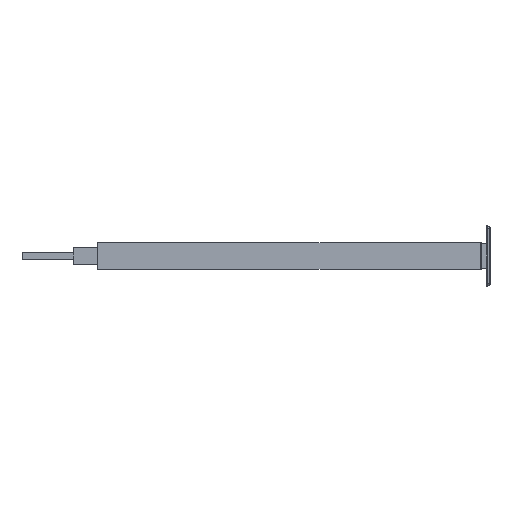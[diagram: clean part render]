
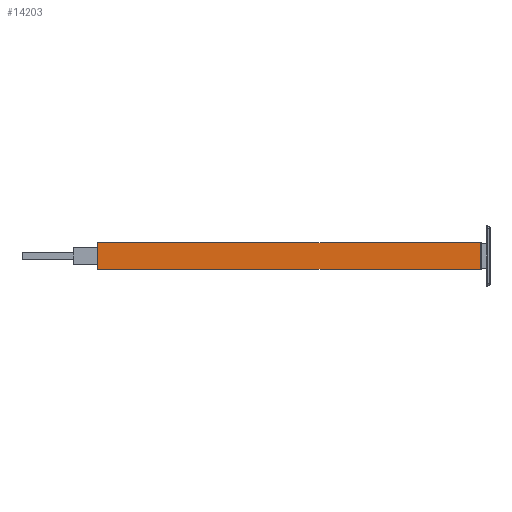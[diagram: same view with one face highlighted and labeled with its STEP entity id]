
A CAD part, left-side view. The second image highlights one B-rep face of the part: STEP entity #14203.
In plain terms, the highlighted planar face has unit normal (-1, 0, 0).
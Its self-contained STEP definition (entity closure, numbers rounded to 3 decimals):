
#706 = CARTESIAN_POINT ( 'NONE',  ( -55., 39.6, -54.5 ) ) ;
#1239 = VERTEX_POINT ( 'NONE', #11627 ) ;
#1525 = LINE ( 'NONE', #11123, #14935 ) ;
#2297 = DIRECTION ( 'NONE',  ( 0., 0., -1. ) ) ;
#3153 = VERTEX_POINT ( 'NONE', #9753 ) ;
#3438 = CARTESIAN_POINT ( 'NONE',  ( -55., 39.6, -55. ) ) ;
#3450 = DIRECTION ( 'NONE',  ( 0., -1., 0. ) ) ;
#3708 = LINE ( 'NONE', #16121, #14199 ) ;
#5068 = LINE ( 'NONE', #7861, #6087 ) ;
#5190 = ORIENTED_EDGE ( 'NONE', *, *, #7521, .T. ) ;
#6087 = VECTOR ( 'NONE', #15981, 1000. ) ;
#6944 = CARTESIAN_POINT ( 'NONE',  ( -55., 1619.1, 54.646 ) ) ;
#7227 = ORIENTED_EDGE ( 'NONE', *, *, #10320, .T. ) ;
#7521 = EDGE_CURVE ( 'NONE', #1239, #3153, #1525, .T. ) ;
#7772 = ORIENTED_EDGE ( 'NONE', *, *, #10238, .T. ) ;
#7861 = CARTESIAN_POINT ( 'NONE',  ( -55., 39.6, 54.646 ) ) ;
#8040 = VERTEX_POINT ( 'NONE', #13217 ) ;
#8539 = VECTOR ( 'NONE', #3450, 1000. ) ;
#8608 = FACE_OUTER_BOUND ( 'NONE', #15301, .T. ) ;
#8689 = AXIS2_PLACEMENT_3D ( 'NONE', #3438, #11355, #8868 ) ;
#8868 = DIRECTION ( 'NONE',  ( 0., 0., 1. ) ) ;
#8957 = PLANE ( 'NONE',  #8689 ) ;
#9753 = CARTESIAN_POINT ( 'NONE',  ( -55., 40.1, 54.646 ) ) ;
#10238 = EDGE_CURVE ( 'NONE', #8040, #1239, #15775, .T. ) ;
#10290 = ORIENTED_EDGE ( 'NONE', *, *, #16421, .T. ) ;
#10320 = EDGE_CURVE ( 'NONE', #14772, #8040, #3708, .T. ) ;
#11039 = DIRECTION ( 'NONE',  ( 0., 0., 1. ) ) ;
#11123 = CARTESIAN_POINT ( 'NONE',  ( -55., 40.1, -55. ) ) ;
#11355 = DIRECTION ( 'NONE',  ( 1., 0., 0. ) ) ;
#11627 = CARTESIAN_POINT ( 'NONE',  ( -55., 40.1, -54.5 ) ) ;
#13217 = CARTESIAN_POINT ( 'NONE',  ( -55., 1619.1, -54.5 ) ) ;
#14199 = VECTOR ( 'NONE', #2297, 1000. ) ;
#14203 = ADVANCED_FACE ( 'NONE', ( #8608 ), #8957, .F. ) ;
#14772 = VERTEX_POINT ( 'NONE', #6944 ) ;
#14935 = VECTOR ( 'NONE', #11039, 1000. ) ;
#15301 = EDGE_LOOP ( 'NONE', ( #10290, #7227, #7772, #5190 ) ) ;
#15775 = LINE ( 'NONE', #706, #8539 ) ;
#15981 = DIRECTION ( 'NONE',  ( 0., 1., 0. ) ) ;
#16121 = CARTESIAN_POINT ( 'NONE',  ( -55., 1619.1, -55. ) ) ;
#16421 = EDGE_CURVE ( 'NONE', #3153, #14772, #5068, .T. ) ;
